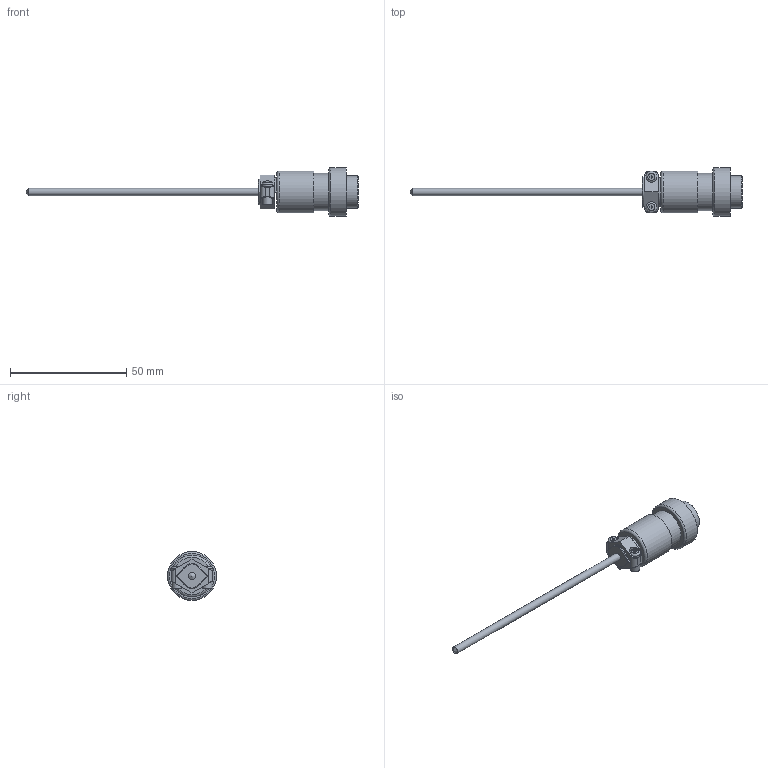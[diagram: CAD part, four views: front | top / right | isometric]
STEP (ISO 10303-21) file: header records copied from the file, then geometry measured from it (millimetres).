
FILE_DESCRIPTION (( 'STEP AP203' ), '1' );
FILE_NAME ('YIR90-2(0).step', '2025-05-28T07:06:01', ( '' ), ( '' ), 'SwSTEP 2.0', 'SolidWorks 2021', '' );
FILE_SCHEMA (( 'CONFIG_CONTROL_DESIGN' ));
Length unit declared in the file: millimetre
Products named in the file (1): YIR90-2(0)
Bounding box: 143 x 21 x 21 mm (x, y, z)
Volume: 9094.4 mm3; surface area: 5764.3 mm2
Topology: 4 solids, 4 shells, 84 faces, 202 edges, 132 vertices
Faces by surface type: plane 50, cylinder 21, torus 4, bspline 4, sphere 3, cone 2
Full cylindrical faces by diameter (mm): 2 x2, 2.5 x1, 3.2 x1, 4 x2, 4.7 x2, 4.8 x2, 13.5 x1, 14 x1, 16 x2, 18 x1, 21 x1
Entity records: 2421 total; most frequent: CARTESIAN_POINT 621, DIRECTION 336, ORIENTED_EDGE 320, EDGE_CURVE 160, EDGE_LOOP 122, VERTEX_POINT 118, AXIS2_PLACEMENT_3D 117, FACE_OUTER_BOUND 104
